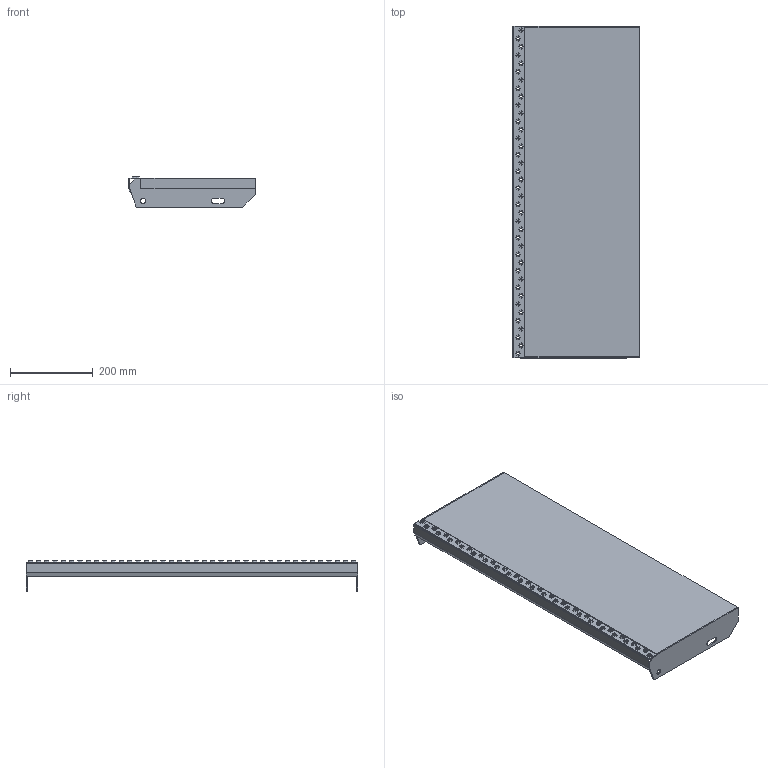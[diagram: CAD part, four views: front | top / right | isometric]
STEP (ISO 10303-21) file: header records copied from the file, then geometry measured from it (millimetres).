
FILE_DESCRIPTION(('Open CASCADE Model'),'2;1');
FILE_NAME('Open CASCADE Shape Model','2019-03-13T10:00:27',('Author'),( 'Open CASCADE'),'Open CASCADE STEP processor 7.2','Open CASCADE 7.2' ,'Unknown');
FILE_SCHEMA(('AUTOMOTIVE_DESIGN { 1 0 10303 214 1 1 1 1 }'));
Length unit declared in the file: millimetre
Products named in the file (1260): Open CASCADE STEP translator 7.2 1; Open CASCADE STEP translator 7.2 2; Open CASCADE STEP translator 7.2 3; Open CASCADE STEP translator 7.2 3.1; Open CASCADE STEP translator 7.2 3.2; Open CASCADE STEP translator 7.2 3.3; Open CASCADE STEP translator 7.2 3.4; Open CASCADE STEP translator 7.2 3.5; Open CASCADE STEP translator 7.2 3.6; Open CASCADE STEP translator 7.2 3.7; Open CASCADE STEP translator 7.2 3.8; Open CASCADE STEP translator 7.2 3.9; Open CASCADE STEP translator 7.2 3.10; Open CASCADE STEP translator 7.2 3.11; Open CASCADE STEP translator 7.2 3.12; Open CASCADE STEP translator 7.2 3.13; Open CASCADE STEP translator 7.2 3.14; Open CASCADE STEP translator 7.2 3.15; Open CASCADE STEP translator 7.2 3.16; Open CASCADE STEP translator 7.2 3.17; Open CASCADE STEP translator 7.2 3.18; Open CASCADE STEP translator 7.2 3.19; Open CASCADE STEP translator 7.2 3.20; Open CASCADE STEP translator 7.2 3.21; Open CASCADE STEP translator 7.2 3.22; Open CASCADE STEP translator 7.2 3.23; Open CASCADE STEP translator 7.2 3.24; Open CASCADE STEP translator 7.2 3.25; Open CASCADE STEP translator 7.2 3.26; Open CASCADE STEP translator 7.2 3.27; Open CASCADE STEP translator 7.2 3.28; Open CASCADE STEP translator 7.2 3.29; Open CASCADE STEP translator 7.2 3.30; Open CASCADE STEP translator 7.2 3.31; Open CASCADE STEP translator 7.2 3.32; Open CASCADE STEP translator 7.2 3.33; Open CASCADE STEP translator 7.2 3.34; Open CASCADE STEP translator 7.2 3.35; Open CASCADE STEP translator 7.2 3.36; Open CASCADE STEP translator 7.2 3.37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
Assembly tree (1256 placements, depth 2):
  Open CASCADE STEP translator 7.2 1
  Open CASCADE STEP translator 7.2 2
  Open CASCADE STEP translator 7.2 3
    Open CASCADE STEP translator 7.2 3.1
    Open CASCADE STEP translator 7.2 3.2
    Open CASCADE STEP translator 7.2 3.3
    Open CASCADE STEP translator 7.2 3.4
    Open CASCADE STEP translator 7.2 3.5
    Open CASCADE STEP translator 7.2 3.6
    Open CASCADE STEP translator 7.2 3.7
    Open CASCADE STEP translator 7.2 3.8
    Open CASCADE STEP translator 7.2 3.9
    Open CASCADE STEP translator 7.2 3.10
    Open CASCADE STEP translator 7.2 3.11
    Open CASCADE STEP translator 7.2 3.12
    Open CASCADE STEP translator 7.2 3.13
    Open CASCADE STEP translator 7.2 3.14
    Open CASCADE STEP translator 7.2 3.15
    Open CASCADE STEP translator 7.2 3.16
    Open CASCADE STEP translator 7.2 3.17
    Open CASCADE STEP translator 7.2 3.18
    Open CASCADE STEP translator 7.2 3.19
    Open CASCADE STEP translator 7.2 3.20
    Open CASCADE STEP translator 7.2 3.21
    Open CASCADE STEP translator 7.2 3.22
    Open CASCADE STEP translator 7.2 3.23
    Open CASCADE STEP translator 7.2 3.24
    Open CASCADE STEP translator 7.2 3.25
    Open CASCADE STEP translator 7.2 3.26
    Open CASCADE STEP translator 7.2 3.27
    Open CASCADE STEP translator 7.2 3.28
    Open CASCADE STEP translator 7.2 3.29
    Open CASCADE STEP translator 7.2 3.30
    Open CASCADE STEP translator 7.2 3.31
    Open CASCADE STEP translator 7.2 3.32
    Open CASCADE STEP translator 7.2 3.33
    Open CASCADE STEP translator 7.2 3.34
    Open CASCADE STEP translator 7.2 3.35
    Open CASCADE STEP translator 7.2 3.36
    Open CASCADE STEP translator 7.2 3.37
    Open CASCADE STEP translator 7.2 3.38
    Open CASCADE STEP translator 7.2 3.39
    Open CASCADE STEP translator 7.2 3.40
    Open CASCADE STEP translator 7.2 3.41
    Open CASCADE STEP translator 7.2 3.42
    Open CASCADE STEP translator 7.2 3.43
    Open CASCADE STEP translator 7.2 3.44
    Open CASCADE STEP translator 7.2 3.45
    Open CASCADE STEP translator 7.2 3.46
    Open CASCADE STEP translator 7.2 3.47
    Open CASCADE STEP translator 7.2 3.48
    Open CASCADE STEP translator 7.2 3.49
    Open CASCADE STEP translator 7.2 3.50
    Open CASCADE STEP translator 7.2 3.51
    Open CASCADE STEP translator 7.2 3.52
    Open CASCADE STEP translator 7.2 3.53
    Open CASCADE STEP translator 7.2 3.54
    Open CASCADE STEP translator 7.2 3.55
    Open CASCADE STEP translator 7.2 3.56
    Open CASCADE STEP translator 7.2 3.57
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Bounding box: 305 x 800 x 73 mm (x, y, z)
Volume: 5587031.2 mm3; surface area: 679496.3 mm2
Topology: 3 solids, 1259 shells, 1294 faces, 6900 edges, 6868 vertices
Faces by surface type: plane 1288, cylinder 6
Full cylindrical faces by diameter (mm): 13 x2
Entity records: 140072 total; most frequent: CARTESIAN_POINT 23411, DIRECTION 18974, LINE 13848, VECTOR 13848, ORIENTED_EDGE 6996, PCURVE 6996, DEFINITIONAL_REPRESENTATION 6996, EDGE_CURVE 6900
